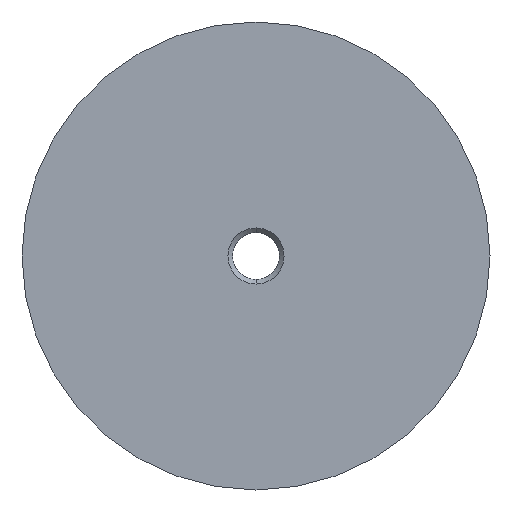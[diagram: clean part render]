
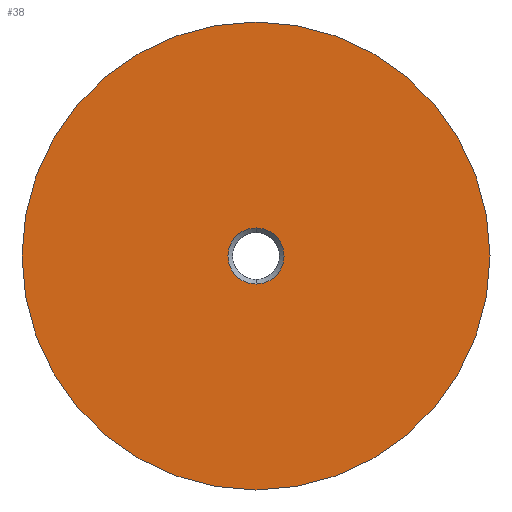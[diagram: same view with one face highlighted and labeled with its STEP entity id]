
A CAD part, front view. The second image highlights one B-rep face of the part: STEP entity #38.
In plain terms, the highlighted planar face has unit normal (0, -1, 0).
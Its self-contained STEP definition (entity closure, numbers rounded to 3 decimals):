
#5 = AXIS2_PLACEMENT_3D ( 'NONE', #163, #359, #130 ) ;
#35 = VERTEX_POINT ( 'NONE', #142 ) ;
#38 = ADVANCED_FACE ( 'NONE', ( #145, #78 ), #266, .T. ) ;
#46 = EDGE_LOOP ( 'NONE', ( #272, #208 ) ) ;
#74 = DIRECTION ( 'NONE',  ( 0., -1., 0. ) ) ;
#78 = FACE_OUTER_BOUND ( 'NONE', #46, .T. ) ;
#81 = ORIENTED_EDGE ( 'NONE', *, *, #197, .F. ) ;
#96 = CIRCLE ( 'NONE', #223, 3. ) ;
#99 = DIRECTION ( 'NONE',  ( 0., 0., -1. ) ) ;
#104 = AXIS2_PLACEMENT_3D ( 'NONE', #413, #365, #335 ) ;
#109 = CIRCLE ( 'NONE', #289, 25. ) ;
#112 = EDGE_CURVE ( 'NONE', #35, #429, #109, .T. ) ;
#123 = ORIENTED_EDGE ( 'NONE', *, *, #388, .F. ) ;
#130 = DIRECTION ( 'NONE',  ( 1., 0., 0. ) ) ;
#133 = CARTESIAN_POINT ( 'NONE',  ( 0., -5., 0. ) ) ;
#142 = CARTESIAN_POINT ( 'NONE',  ( -25., -5., 0. ) ) ;
#145 = FACE_BOUND ( 'NONE', #162, .T. ) ;
#158 = CARTESIAN_POINT ( 'NONE',  ( 0., -5., 0. ) ) ;
#162 = EDGE_LOOP ( 'NONE', ( #123, #81 ) ) ;
#163 = CARTESIAN_POINT ( 'NONE',  ( 0., -5., 0. ) ) ;
#172 = CIRCLE ( 'NONE', #5, 25. ) ;
#187 = DIRECTION ( 'NONE',  ( 0., 0., -1. ) ) ;
#189 = CARTESIAN_POINT ( 'NONE',  ( 0., -5., -3. ) ) ;
#197 = EDGE_CURVE ( 'NONE', #341, #270, #382, .T. ) ;
#208 = ORIENTED_EDGE ( 'NONE', *, *, #221, .T. ) ;
#221 = EDGE_CURVE ( 'NONE', #429, #35, #172, .T. ) ;
#223 = AXIS2_PLACEMENT_3D ( 'NONE', #158, #352, #187 ) ;
#265 = DIRECTION ( 'NONE',  ( 1., 0., 0. ) ) ;
#266 = PLANE ( 'NONE',  #104 ) ;
#270 = VERTEX_POINT ( 'NONE', #189 ) ;
#272 = ORIENTED_EDGE ( 'NONE', *, *, #112, .T. ) ;
#289 = AXIS2_PLACEMENT_3D ( 'NONE', #296, #74, #265 ) ;
#296 = CARTESIAN_POINT ( 'NONE',  ( 0., -5., 0. ) ) ;
#319 = CARTESIAN_POINT ( 'NONE',  ( 0., -5., 3. ) ) ;
#327 = DIRECTION ( 'NONE',  ( 0., -1., 0. ) ) ;
#335 = DIRECTION ( 'NONE',  ( 1., 0., 0. ) ) ;
#341 = VERTEX_POINT ( 'NONE', #319 ) ;
#352 = DIRECTION ( 'NONE',  ( 0., -1., 0. ) ) ;
#359 = DIRECTION ( 'NONE',  ( 0., -1., 0. ) ) ;
#365 = DIRECTION ( 'NONE',  ( 0., -1., 0. ) ) ;
#382 = CIRCLE ( 'NONE', #390, 3. ) ;
#388 = EDGE_CURVE ( 'NONE', #270, #341, #96, .T. ) ;
#390 = AXIS2_PLACEMENT_3D ( 'NONE', #133, #327, #99 ) ;
#413 = CARTESIAN_POINT ( 'NONE',  ( 0., -5., 0. ) ) ;
#428 = CARTESIAN_POINT ( 'NONE',  ( 25., -5., 0. ) ) ;
#429 = VERTEX_POINT ( 'NONE', #428 ) ;
